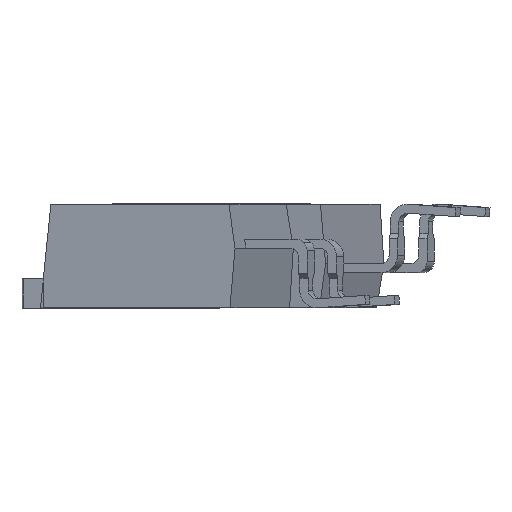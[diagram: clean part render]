
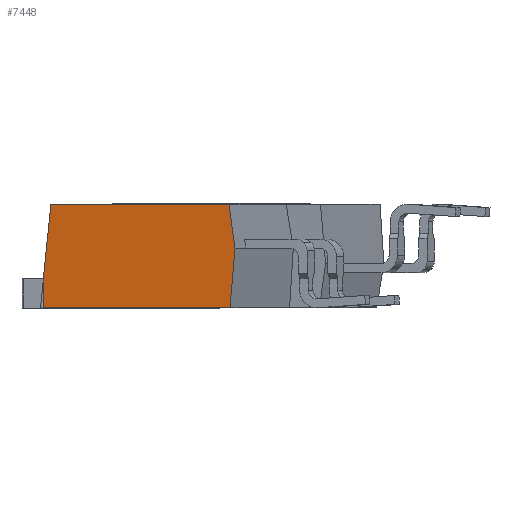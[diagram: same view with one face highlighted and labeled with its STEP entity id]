
A CAD part, left-side view. The second image highlights one B-rep face of the part: STEP entity #7448.
In plain terms, the highlighted planar face has unit normal (-0.965, 0.259, 0.044) as drawn and (-0.999, 0, 0.044) by its records, which use the part's own axes.
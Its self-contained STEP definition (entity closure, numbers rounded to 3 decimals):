
#163 = CARTESIAN_POINT ( 'NONE',  ( -5.036, 4.345, 0.423 ) ) ;
#207 = VERTEX_POINT ( 'NONE', #6805 ) ;
#699 = DIRECTION ( 'NONE',  ( -0.044, 0.091, -0.995 ) ) ;
#848 = LINE ( 'NONE', #1588, #7277 ) ;
#942 = CARTESIAN_POINT ( 'NONE',  ( -5.055, 0., 0. ) ) ;
#977 = DIRECTION ( 'NONE',  ( 0.999, 0., -0.044 ) ) ;
#1117 = CARTESIAN_POINT ( 'NONE',  ( -4.94, -4.345, 2.619 ) ) ;
#1281 = CARTESIAN_POINT ( 'NONE',  ( -4.855, -4.047, 4.55 ) ) ;
#1322 = CARTESIAN_POINT ( 'NONE',  ( -5.055, -4.145, 0. ) ) ;
#1456 = CARTESIAN_POINT ( 'NONE',  ( -5.056, 4.345, 0. ) ) ;
#1588 = CARTESIAN_POINT ( 'NONE',  ( -4.855, 0., 4.55 ) ) ;
#1665 = DIRECTION ( 'NONE',  ( 0., 1., 0. ) ) ;
#1684 = B_SPLINE_CURVE_WITH_KNOTS ( 'NONE', 3,
 ( #2627, #2080, #163, #1456 ),
 .UNSPECIFIED., .F., .F.,
 ( 4, 4 ),
 ( 0., 1. ),
 .UNSPECIFIED. ) ;
#1797 = ORIENTED_EDGE ( 'NONE', *, *, #1940, .T. ) ;
#1940 = EDGE_CURVE ( 'NONE', #3111, #4228, #4981, .T. ) ;
#1942 = VERTEX_POINT ( 'NONE', #2733 ) ;
#2080 = CARTESIAN_POINT ( 'NONE',  ( -5.018, 4.345, 0.847 ) ) ;
#2149 = CARTESIAN_POINT ( 'NONE',  ( -5.055, -4.145, 0. ) ) ;
#2344 = CARTESIAN_POINT ( 'NONE',  ( -4.855, 4.045, 4.56 ) ) ;
#2460 = LINE ( 'NONE', #2344, #5810 ) ;
#2572 = VERTEX_POINT ( 'NONE', #6086 ) ;
#2627 = CARTESIAN_POINT ( 'NONE',  ( -5., 4.345, 1.27 ) ) ;
#2733 = CARTESIAN_POINT ( 'NONE',  ( -4.855, 4.046, 4.55 ) ) ;
#2916 = EDGE_CURVE ( 'NONE', #4228, #1942, #848, .T. ) ;
#2921 = ORIENTED_EDGE ( 'NONE', *, *, #7438, .F. ) ;
#3111 = VERTEX_POINT ( 'NONE', #1117 ) ;
#3374 = VERTEX_POINT ( 'NONE', #7459 ) ;
#3382 = DIRECTION ( 'NONE',  ( 0., -1., 0. ) ) ;
#3667 = ORIENTED_EDGE ( 'NONE', *, *, #6437, .T. ) ;
#3775 = DIRECTION ( 'NONE',  ( 0.044, -0.076, 0.996 ) ) ;
#3781 = EDGE_LOOP ( 'NONE', ( #6134, #6675, #3667, #2921, #5479, #1797 ) ) ;
#3950 = LINE ( 'NONE', #2149, #4721 ) ;
#4024 = VECTOR ( 'NONE', #5058, 1000. ) ;
#4186 = EDGE_CURVE ( 'NONE', #3374, #3111, #5597, .T. ) ;
#4228 = VERTEX_POINT ( 'NONE', #1281 ) ;
#4721 = VECTOR ( 'NONE', #1665, 1000. ) ;
#4981 = LINE ( 'NONE', #5102, #4024 ) ;
#5058 = DIRECTION ( 'NONE',  ( 0.043, 0.153, 0.987 ) ) ;
#5102 = CARTESIAN_POINT ( 'NONE',  ( -4.94, -4.345, 2.619 ) ) ;
#5479 = ORIENTED_EDGE ( 'NONE', *, *, #4186, .T. ) ;
#5597 = LINE ( 'NONE', #1322, #6971 ) ;
#5672 = DIRECTION ( 'NONE',  ( 0., 1., 0. ) ) ;
#5719 = PLANE ( 'NONE',  #7711 ) ;
#5810 = VECTOR ( 'NONE', #699, 1000. ) ;
#6086 = CARTESIAN_POINT ( 'NONE',  ( -5., 4.345, 1.27 ) ) ;
#6134 = ORIENTED_EDGE ( 'NONE', *, *, #2916, .T. ) ;
#6437 = EDGE_CURVE ( 'NONE', #2572, #207, #1684, .T. ) ;
#6455 = FACE_OUTER_BOUND ( 'NONE', #3781, .T. ) ;
#6675 = ORIENTED_EDGE ( 'NONE', *, *, #7310, .T. ) ;
#6805 = CARTESIAN_POINT ( 'NONE',  ( -5.056, 4.345, 0. ) ) ;
#6971 = VECTOR ( 'NONE', #3775, 1000. ) ;
#7277 = VECTOR ( 'NONE', #5672, 1000. ) ;
#7310 = EDGE_CURVE ( 'NONE', #1942, #2572, #2460, .T. ) ;
#7438 = EDGE_CURVE ( 'NONE', #3374, #207, #3950, .T. ) ;
#7448 = ADVANCED_FACE ( 'NONE', ( #6455 ), #5719, .F. ) ;
#7459 = CARTESIAN_POINT ( 'NONE',  ( -5.055, -4.145, 0. ) ) ;
#7711 = AXIS2_PLACEMENT_3D ( 'NONE', #942, #977, #3382 ) ;
